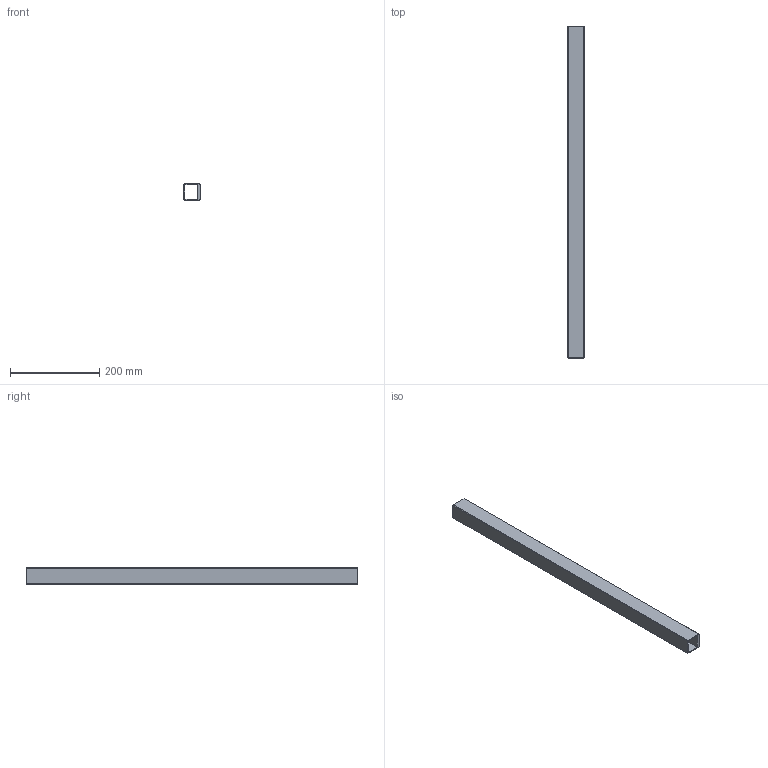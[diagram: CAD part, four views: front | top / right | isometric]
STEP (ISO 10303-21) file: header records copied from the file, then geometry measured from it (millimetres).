
FILE_DESCRIPTION(/* description */ (''),/* implementation_level */ '2;1');
FILE_NAME(/* name */ 'GL0305020101-A四方管(LOW).stp',/* time_stamp */ '2026-09-24T14:08:03+08:00',/* author */ (''),/* organization */ (''),/* preprocessor_version */ 'ST-DEVELOPER v16.7',/* originating_system */ 'SIEMENS PLM Software NX 12.0',/* authorisation */ '');
FILE_SCHEMA (('AUTOMOTIVE_DESIGN { 1 0 10303 214 3 1 1 1 }'));
Length unit declared in the file: millimetre
Products named in the file (1): F2D091BFuu77
Bounding box: 36 x 743 x 36 mm (x, y, z)
Volume: 260170.4 mm3; surface area: 197559.9 mm2
Topology: 1 solids, 1 shells, 50 faces, 132 edges, 96 vertices
Faces by surface type: cylinder 28, plane 22
Full cylindrical faces by diameter (mm): 11.55 x12, 20.05 x12
Entity records: 1352 total; most frequent: DIRECTION 242, CARTESIAN_POINT 207, ORIENTED_EDGE 168, EDGE_LOOP 112, AXIS2_PLACEMENT_3D 107, FACE_BOUND 102, EDGE_CURVE 84, VERTEX_POINT 72
